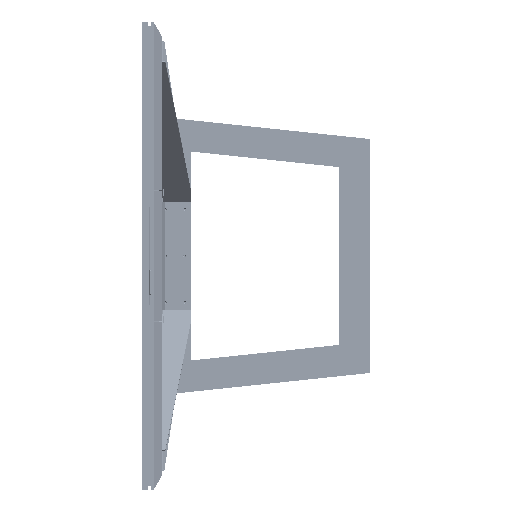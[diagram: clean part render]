
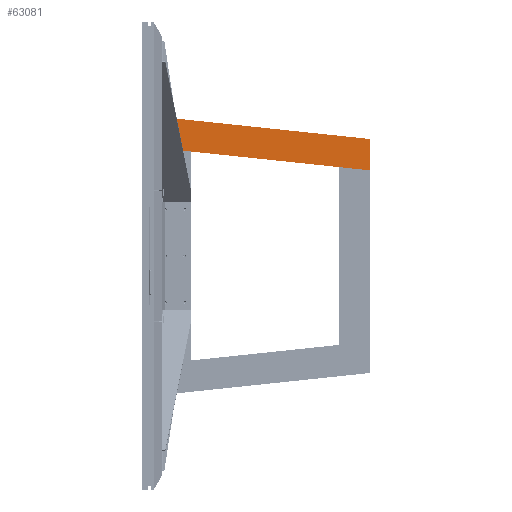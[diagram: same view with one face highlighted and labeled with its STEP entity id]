
A CAD part, left-side view. The second image highlights one B-rep face of the part: STEP entity #63081.
In plain terms, the highlighted planar face has unit normal (-1, 0, 0) as drawn and (0, 0, -1) by its records, which use the part's own axes.
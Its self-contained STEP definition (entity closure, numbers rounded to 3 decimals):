
#10656=FACE_OUTER_BOUND('',#14180,.T.);
#14180=EDGE_LOOP('',(#56426,#56427,#56428,#56429));
#20574=LINE('',#115086,#27206);
#20577=LINE('',#115092,#27209);
#20582=LINE('',#115102,#27214);
#20584=LINE('',#115105,#27216);
#27206=VECTOR('',#84367,0.394);
#27209=VECTOR('',#84372,0.394);
#27214=VECTOR('',#84381,0.394);
#27216=VECTOR('',#84385,0.394);
#32724=VERTEX_POINT('',#115082);
#32726=VERTEX_POINT('',#115085);
#32728=VERTEX_POINT('',#115091);
#32731=VERTEX_POINT('',#115101);
#40695=EDGE_CURVE('',#32724,#32726,#20574,.T.);
#40698=EDGE_CURVE('',#32726,#32728,#20577,.T.);
#40703=EDGE_CURVE('',#32728,#32731,#20582,.T.);
#40705=EDGE_CURVE('',#32731,#32724,#20584,.T.);
#56426=ORIENTED_EDGE('',*,*,#40698,.F.);
#56427=ORIENTED_EDGE('',*,*,#40695,.F.);
#56428=ORIENTED_EDGE('',*,*,#40705,.F.);
#56429=ORIENTED_EDGE('',*,*,#40703,.F.);
#59988=PLANE('',#69563);
#63081=ADVANCED_FACE('',(#10656),#59988,.F.);
#69563=AXIS2_PLACEMENT_3D('',#115106,#84386,#84387);
#84367=DIRECTION('',(0.105,-0.995,0.));
#84372=DIRECTION('',(1.,0.,0.));
#84381=DIRECTION('',(-0.105,0.995,0.));
#84385=DIRECTION('',(-1.,0.,0.));
#84386=DIRECTION('center_axis',(0.,0.,1.));
#84387=DIRECTION('ref_axis',(1.,0.,0.));
#115082=CARTESIAN_POINT('',(-17.838,27.,-2.));
#115085=CARTESIAN_POINT('',(-15.,0.,-2.));
#115086=CARTESIAN_POINT('',(-17.838,27.,-2.));
#115091=CARTESIAN_POINT('',(-10.978,0.,-2.));
#115092=CARTESIAN_POINT('',(-15.,0.,-2.));
#115101=CARTESIAN_POINT('',(-13.816,27.,-2.));
#115102=CARTESIAN_POINT('',(-10.978,0.,-2.));
#115105=CARTESIAN_POINT('',(-13.816,27.,-2.));
#115106=CARTESIAN_POINT('Origin',(-14.408,13.5,-2.));
